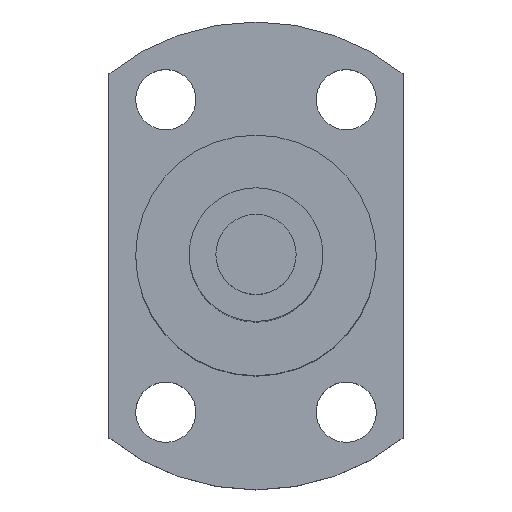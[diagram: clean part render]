
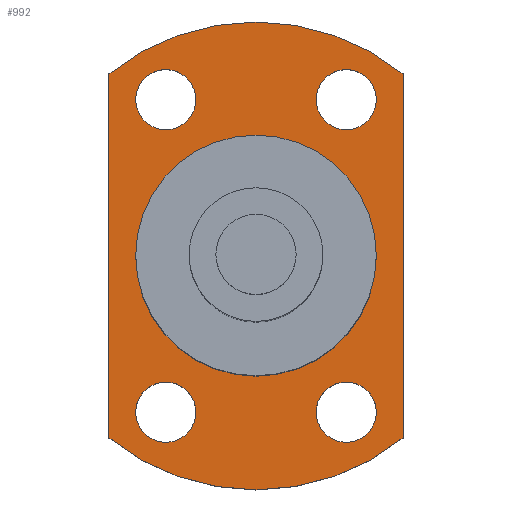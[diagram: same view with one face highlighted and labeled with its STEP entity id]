
A CAD part, top view. The second image highlights one B-rep face of the part: STEP entity #992.
In plain terms, the highlighted planar face has unit normal (0, 0, 1).
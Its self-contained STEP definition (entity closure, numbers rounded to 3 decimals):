
#219=CARTESIAN_POINT('',(6.75,11.691,90.));
#220=DIRECTION('',(0.,0.,-1.));
#221=DIRECTION('',(1.,0.,0.));
#222=AXIS2_PLACEMENT_3D('',#219,#220,#221);
#224=CARTESIAN_POINT('',(6.75,11.691,90.));
#225=DIRECTION('',(0.,0.,-1.));
#226=DIRECTION('',(-1.,0.,0.));
#227=AXIS2_PLACEMENT_3D('',#224,#225,#226);
#229=CARTESIAN_POINT('',(-6.75,11.691,90.));
#230=DIRECTION('',(0.,0.,-1.));
#231=DIRECTION('',(1.,0.,0.));
#232=AXIS2_PLACEMENT_3D('',#229,#230,#231);
#234=CARTESIAN_POINT('',(-6.75,11.691,90.));
#235=DIRECTION('',(0.,0.,-1.));
#236=DIRECTION('',(-1.,0.,0.));
#237=AXIS2_PLACEMENT_3D('',#234,#235,#236);
#239=CARTESIAN_POINT('',(6.75,-11.691,90.));
#240=DIRECTION('',(0.,0.,-1.));
#241=DIRECTION('',(1.,0.,0.));
#242=AXIS2_PLACEMENT_3D('',#239,#240,#241);
#244=CARTESIAN_POINT('',(6.75,-11.691,90.));
#245=DIRECTION('',(0.,0.,-1.));
#246=DIRECTION('',(-1.,0.,0.));
#247=AXIS2_PLACEMENT_3D('',#244,#245,#246);
#249=CARTESIAN_POINT('',(-6.75,-11.691,90.));
#250=DIRECTION('',(0.,0.,-1.));
#251=DIRECTION('',(1.,0.,0.));
#252=AXIS2_PLACEMENT_3D('',#249,#250,#251);
#254=CARTESIAN_POINT('',(-6.75,-11.691,90.));
#255=DIRECTION('',(0.,0.,-1.));
#256=DIRECTION('',(-1.,0.,0.));
#257=AXIS2_PLACEMENT_3D('',#254,#255,#256);
#259=CARTESIAN_POINT('',(0.,0.,90.));
#260=DIRECTION('',(0.,0.,1.));
#261=DIRECTION('',(0.629,0.778,0.));
#262=AXIS2_PLACEMENT_3D('',#259,#260,#261);
#264=DIRECTION('',(0.,1.,0.));
#265=VECTOR('',#264,27.221);
#266=CARTESIAN_POINT('',(11.,-13.611,90.));
#267=LINE('',#266,#265);
#268=CARTESIAN_POINT('',(0.,0.,90.));
#269=DIRECTION('',(0.,0.,1.));
#270=DIRECTION('',(-0.629,-0.778,0.));
#271=AXIS2_PLACEMENT_3D('',#268,#269,#270);
#273=DIRECTION('',(0.,-1.,0.));
#274=VECTOR('',#273,27.221);
#275=CARTESIAN_POINT('',(-11.,13.611,90.));
#276=LINE('',#275,#274);
#277=CARTESIAN_POINT('',(0.,0.,90.));
#278=DIRECTION('',(0.,0.,1.));
#279=DIRECTION('',(1.,0.,0.));
#280=AXIS2_PLACEMENT_3D('',#277,#278,#279);
#282=CARTESIAN_POINT('',(0.,0.,90.));
#283=DIRECTION('',(0.,0.,1.));
#284=DIRECTION('',(-1.,0.,0.));
#285=AXIS2_PLACEMENT_3D('',#282,#283,#284);
#573=CARTESIAN_POINT('',(9.,11.691,90.));
#574=CARTESIAN_POINT('',(4.5,11.691,90.));
#575=VERTEX_POINT('',#573);
#576=VERTEX_POINT('',#574);
#577=CARTESIAN_POINT('',(-4.5,11.691,90.));
#578=CARTESIAN_POINT('',(-9.,11.691,90.));
#579=VERTEX_POINT('',#577);
#580=VERTEX_POINT('',#578);
#581=CARTESIAN_POINT('',(9.,-11.691,90.));
#582=CARTESIAN_POINT('',(4.5,-11.691,90.));
#583=VERTEX_POINT('',#581);
#584=VERTEX_POINT('',#582);
#585=CARTESIAN_POINT('',(-4.5,-11.691,90.));
#586=CARTESIAN_POINT('',(-9.,-11.691,90.));
#587=VERTEX_POINT('',#585);
#588=VERTEX_POINT('',#586);
#589=CARTESIAN_POINT('',(-11.,13.611,90.));
#590=CARTESIAN_POINT('',(-11.,-13.611,90.));
#591=VERTEX_POINT('',#589);
#592=VERTEX_POINT('',#590);
#593=CARTESIAN_POINT('',(11.,-13.611,90.));
#594=CARTESIAN_POINT('',(11.,13.611,90.));
#595=VERTEX_POINT('',#593);
#596=VERTEX_POINT('',#594);
#605=CARTESIAN_POINT('',(9.,0.,90.));
#606=CARTESIAN_POINT('',(-9.,0.,90.));
#607=VERTEX_POINT('',#605);
#608=VERTEX_POINT('',#606);
#949=CARTESIAN_POINT('',(0.,0.,90.));
#950=DIRECTION('',(0.,0.,1.));
#951=DIRECTION('',(1.,0.,0.));
#952=AXIS2_PLACEMENT_3D('',#949,#950,#951);
#953=PLANE('',#952);
#955=ORIENTED_EDGE('',*,*,#954,.F.);
#957=ORIENTED_EDGE('',*,*,#956,.F.);
#959=ORIENTED_EDGE('',*,*,#958,.F.);
#961=ORIENTED_EDGE('',*,*,#960,.F.);
#962=EDGE_LOOP('',(#955,#957,#959,#961));
#963=FACE_OUTER_BOUND('',#962,.F.);
#964=ORIENTED_EDGE('',*,*,#929,.F.);
#965=ORIENTED_EDGE('',*,*,#943,.F.);
#966=EDGE_LOOP('',(#964,#965));
#967=FACE_BOUND('',#966,.F.);
#969=ORIENTED_EDGE('',*,*,#968,.F.);
#971=ORIENTED_EDGE('',*,*,#970,.F.);
#972=EDGE_LOOP('',(#969,#971));
#973=FACE_BOUND('',#972,.F.);
#975=ORIENTED_EDGE('',*,*,#974,.F.);
#977=ORIENTED_EDGE('',*,*,#976,.F.);
#978=EDGE_LOOP('',(#975,#977));
#979=FACE_BOUND('',#978,.F.);
#981=ORIENTED_EDGE('',*,*,#980,.F.);
#983=ORIENTED_EDGE('',*,*,#982,.F.);
#984=EDGE_LOOP('',(#981,#983));
#985=FACE_BOUND('',#984,.F.);
#987=ORIENTED_EDGE('',*,*,#986,.T.);
#989=ORIENTED_EDGE('',*,*,#988,.T.);
#990=EDGE_LOOP('',(#987,#989));
#991=FACE_BOUND('',#990,.F.);
#992=ADVANCED_FACE('',(#963,#967,#973,#979,#985,#991),#953,.T.);
#223=CIRCLE('',#222,2.25);
#228=CIRCLE('',#227,2.25);
#233=CIRCLE('',#232,2.25);
#238=CIRCLE('',#237,2.25);
#243=CIRCLE('',#242,2.25);
#248=CIRCLE('',#247,2.25);
#253=CIRCLE('',#252,2.25);
#258=CIRCLE('',#257,2.25);
#263=CIRCLE('',#262,17.5);
#272=CIRCLE('',#271,17.5);
#281=CIRCLE('',#280,9.);
#286=CIRCLE('',#285,9.);
#929=EDGE_CURVE('',#575,#576,#223,.T.);
#943=EDGE_CURVE('',#576,#575,#228,.T.);
#954=EDGE_CURVE('',#596,#591,#263,.T.);
#956=EDGE_CURVE('',#595,#596,#267,.T.);
#958=EDGE_CURVE('',#592,#595,#272,.T.);
#960=EDGE_CURVE('',#591,#592,#276,.T.);
#968=EDGE_CURVE('',#579,#580,#233,.T.);
#970=EDGE_CURVE('',#580,#579,#238,.T.);
#974=EDGE_CURVE('',#583,#584,#243,.T.);
#976=EDGE_CURVE('',#584,#583,#248,.T.);
#980=EDGE_CURVE('',#587,#588,#253,.T.);
#982=EDGE_CURVE('',#588,#587,#258,.T.);
#986=EDGE_CURVE('',#607,#608,#281,.T.);
#988=EDGE_CURVE('',#608,#607,#286,.T.);
